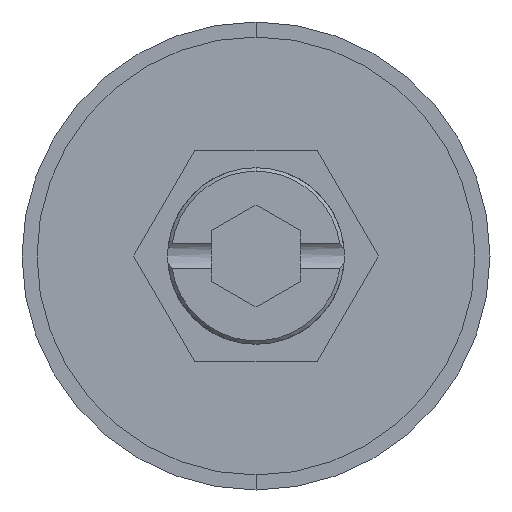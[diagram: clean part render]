
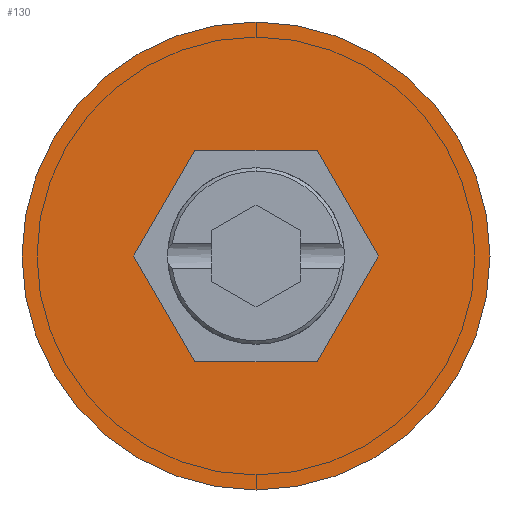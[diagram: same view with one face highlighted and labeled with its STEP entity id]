
A CAD part, front view. The second image highlights one B-rep face of the part: STEP entity #130.
In plain terms, the highlighted planar face has unit normal (0, -1, 0).
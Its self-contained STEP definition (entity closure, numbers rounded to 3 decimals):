
#75 = DIRECTION ( 'NONE',  ( 1., 0., 0. ) ) ;
#130 = ADVANCED_FACE ( 'NONE', ( #204, #1179 ), #3621, .T. ) ;
#139 = CIRCLE ( 'NONE', #5217, 13.25 ) ;
#152 = EDGE_LOOP ( 'NONE', ( #3267, #4516, #3100, #2551, #4066, #2937 ) ) ;
#204 = FACE_BOUND ( 'NONE', #152, .T. ) ;
#373 = AXIS2_PLACEMENT_3D ( 'NONE', #4194, #1772, #4607 ) ;
#406 = VERTEX_POINT ( 'NONE', #4856 ) ;
#553 = AXIS2_PLACEMENT_3D ( 'NONE', #3836, #3199, #3062 ) ;
#555 = EDGE_CURVE ( 'NONE', #3069, #1432, #1638, .T. ) ;
#736 = CIRCLE ( 'NONE', #373, 13.25 ) ;
#784 = DIRECTION ( 'NONE',  ( 0., 0., -1. ) ) ;
#895 = EDGE_CURVE ( 'NONE', #4134, #3817, #1861, .T. ) ;
#1084 = LINE ( 'NONE', #3797, #3012 ) ;
#1179 = FACE_OUTER_BOUND ( 'NONE', #2737, .T. ) ;
#1186 = CARTESIAN_POINT ( 'NONE',  ( 0., 0., 0. ) ) ;
#1222 = EDGE_CURVE ( 'NONE', #406, #1619, #139, .T. ) ;
#1327 = ORIENTED_EDGE ( 'NONE', *, *, #1222, .T. ) ;
#1335 = EDGE_CURVE ( 'NONE', #2857, #4985, #1084, .T. ) ;
#1432 = VERTEX_POINT ( 'NONE', #1792 ) ;
#1619 = VERTEX_POINT ( 'NONE', #5167 ) ;
#1638 = LINE ( 'NONE', #5262, #4718 ) ;
#1703 = VECTOR ( 'NONE', #5039, 1000. ) ;
#1743 = CARTESIAN_POINT ( 'NONE',  ( 3.464, 0., -6. ) ) ;
#1759 = LINE ( 'NONE', #4960, #5130 ) ;
#1772 = DIRECTION ( 'NONE',  ( 0., -1., 0. ) ) ;
#1792 = CARTESIAN_POINT ( 'NONE',  ( 6.928, 0., 0. ) ) ;
#1861 = LINE ( 'NONE', #2223, #2680 ) ;
#2223 = CARTESIAN_POINT ( 'NONE',  ( -6.928, 0., 0. ) ) ;
#2551 = ORIENTED_EDGE ( 'NONE', *, *, #1335, .F. ) ;
#2655 = ORIENTED_EDGE ( 'NONE', *, *, #3314, .T. ) ;
#2680 = VECTOR ( 'NONE', #3852, 1000. ) ;
#2737 = EDGE_LOOP ( 'NONE', ( #1327, #2655 ) ) ;
#2788 = LINE ( 'NONE', #5019, #1703 ) ;
#2857 = VERTEX_POINT ( 'NONE', #2919 ) ;
#2870 = EDGE_CURVE ( 'NONE', #1432, #2857, #3890, .T. ) ;
#2908 = EDGE_CURVE ( 'NONE', #3817, #3069, #1759, .T. ) ;
#2919 = CARTESIAN_POINT ( 'NONE',  ( 3.464, 0., 6. ) ) ;
#2937 = ORIENTED_EDGE ( 'NONE', *, *, #555, .F. ) ;
#2974 = VECTOR ( 'NONE', #3725, 1000. ) ;
#3012 = VECTOR ( 'NONE', #4627, 1000. ) ;
#3062 = DIRECTION ( 'NONE',  ( 0., 0., -1. ) ) ;
#3069 = VERTEX_POINT ( 'NONE', #1743 ) ;
#3100 = ORIENTED_EDGE ( 'NONE', *, *, #3357, .F. ) ;
#3199 = DIRECTION ( 'NONE',  ( 0., -1., 0. ) ) ;
#3267 = ORIENTED_EDGE ( 'NONE', *, *, #2908, .F. ) ;
#3314 = EDGE_CURVE ( 'NONE', #1619, #406, #736, .T. ) ;
#3357 = EDGE_CURVE ( 'NONE', #4985, #4134, #2788, .T. ) ;
#3621 = PLANE ( 'NONE',  #553 ) ;
#3629 = DIRECTION ( 'NONE',  ( 0., -1., 0. ) ) ;
#3725 = DIRECTION ( 'NONE',  ( -0.5, 0., 0.866 ) ) ;
#3797 = CARTESIAN_POINT ( 'NONE',  ( 3.464, 0., 6. ) ) ;
#3817 = VERTEX_POINT ( 'NONE', #5023 ) ;
#3836 = CARTESIAN_POINT ( 'NONE',  ( 0., 0., 0. ) ) ;
#3852 = DIRECTION ( 'NONE',  ( 0.5, 0., -0.866 ) ) ;
#3890 = LINE ( 'NONE', #4534, #2974 ) ;
#4066 = ORIENTED_EDGE ( 'NONE', *, *, #2870, .F. ) ;
#4134 = VERTEX_POINT ( 'NONE', #4691 ) ;
#4194 = CARTESIAN_POINT ( 'NONE',  ( 0., 0., 0. ) ) ;
#4249 = DIRECTION ( 'NONE',  ( 0.5, 0., 0.866 ) ) ;
#4381 = CARTESIAN_POINT ( 'NONE',  ( -3.464, 0., 6. ) ) ;
#4516 = ORIENTED_EDGE ( 'NONE', *, *, #895, .F. ) ;
#4534 = CARTESIAN_POINT ( 'NONE',  ( 6.928, 0., 0. ) ) ;
#4607 = DIRECTION ( 'NONE',  ( 0., 0., -1. ) ) ;
#4627 = DIRECTION ( 'NONE',  ( -1., 0., 0. ) ) ;
#4691 = CARTESIAN_POINT ( 'NONE',  ( -6.928, 0., 0. ) ) ;
#4718 = VECTOR ( 'NONE', #4249, 1000. ) ;
#4856 = CARTESIAN_POINT ( 'NONE',  ( 0., 0., -13.25 ) ) ;
#4960 = CARTESIAN_POINT ( 'NONE',  ( -3.464, 0., -6. ) ) ;
#4985 = VERTEX_POINT ( 'NONE', #4381 ) ;
#5019 = CARTESIAN_POINT ( 'NONE',  ( -3.464, 0., 6. ) ) ;
#5023 = CARTESIAN_POINT ( 'NONE',  ( -3.464, 0., -6. ) ) ;
#5039 = DIRECTION ( 'NONE',  ( -0.5, 0., -0.866 ) ) ;
#5130 = VECTOR ( 'NONE', #75, 1000. ) ;
#5167 = CARTESIAN_POINT ( 'NONE',  ( 0., 0., 13.25 ) ) ;
#5217 = AXIS2_PLACEMENT_3D ( 'NONE', #1186, #3629, #784 ) ;
#5262 = CARTESIAN_POINT ( 'NONE',  ( 3.464, 0., -6. ) ) ;
